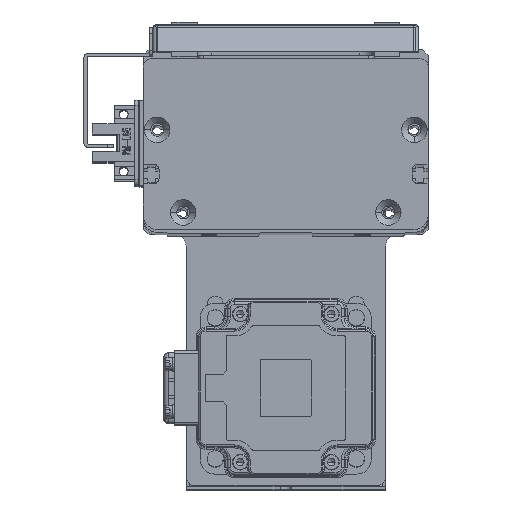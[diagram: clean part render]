
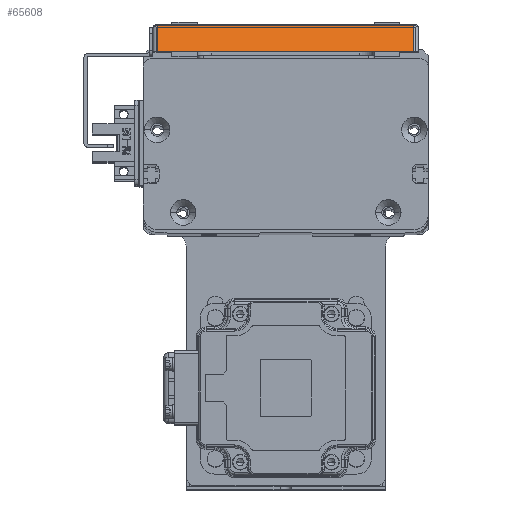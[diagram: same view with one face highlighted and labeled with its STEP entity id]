
A CAD part, top view. The second image highlights one B-rep face of the part: STEP entity #65608.
In plain terms, the highlighted planar face has unit normal (0, 0.707, 0.707) as drawn and (-0.707, 0, -0.707) by its records, which use the part's own axes.
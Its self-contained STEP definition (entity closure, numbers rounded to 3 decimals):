
#5240 = ORIENTED_EDGE ( 'NONE', *, *, #55066, .T. ) ;
#5382 = LINE ( 'NONE', #55321, #48227 ) ;
#7487 = ORIENTED_EDGE ( 'NONE', *, *, #48388, .T. ) ;
#8179 = LINE ( 'NONE', #66872, #59366 ) ;
#8588 = PLANE ( 'NONE',  #68480 ) ;
#12643 = CARTESIAN_POINT ( 'NONE',  ( -68., 91.7, 5.6 ) ) ;
#16825 = LINE ( 'NONE', #12643, #58664 ) ;
#17959 = EDGE_LOOP ( 'NONE', ( #19389, #5240, #55333, #7487 ) ) ;
#19389 = ORIENTED_EDGE ( 'NONE', *, *, #57679, .T. ) ;
#22285 = LINE ( 'NONE', #67739, #41555 ) ;
#22583 = FACE_OUTER_BOUND ( 'NONE', #17959, .T. ) ;
#23813 = DIRECTION ( 'NONE',  ( 0., 1., 0. ) ) ;
#24546 = CARTESIAN_POINT ( 'NONE',  ( -57.298, 1.7, -5.102 ) ) ;
#28849 = DIRECTION ( 'NONE',  ( 0., -1., 0. ) ) ;
#29719 = DIRECTION ( 'NONE',  ( -0.707, 0., 0.707 ) ) ;
#29825 = CARTESIAN_POINT ( 'NONE',  ( -57.298, 91.7, -5.102 ) ) ;
#32136 = DIRECTION ( 'NONE',  ( -0.707, 0., 0.707 ) ) ;
#33083 = CARTESIAN_POINT ( 'NONE',  ( -66.5, 1.7, 4.1 ) ) ;
#35698 = VERTEX_POINT ( 'NONE', #57978 ) ;
#36407 = VERTEX_POINT ( 'NONE', #33083 ) ;
#41555 = VECTOR ( 'NONE', #32136, 1000. ) ;
#45908 = DIRECTION ( 'NONE',  ( -0.707, 0., -0.707 ) ) ;
#48227 = VECTOR ( 'NONE', #28849, 1000. ) ;
#48388 = EDGE_CURVE ( 'NONE', #59150, #65624, #5382, .T. ) ;
#55066 = EDGE_CURVE ( 'NONE', #36407, #35698, #8179, .T. ) ;
#55321 = CARTESIAN_POINT ( 'NONE',  ( -57.298, 93.4, -5.102 ) ) ;
#55333 = ORIENTED_EDGE ( 'NONE', *, *, #65433, .T. ) ;
#57679 = EDGE_CURVE ( 'NONE', #65624, #36407, #22285, .T. ) ;
#57978 = CARTESIAN_POINT ( 'NONE',  ( -66.5, 91.7, 4.1 ) ) ;
#58664 = VECTOR ( 'NONE', #60178, 1000. ) ;
#59150 = VERTEX_POINT ( 'NONE', #29825 ) ;
#59366 = VECTOR ( 'NONE', #23813, 1000. ) ;
#60178 = DIRECTION ( 'NONE',  ( 0.707, 0., -0.707 ) ) ;
#61812 = CARTESIAN_POINT ( 'NONE',  ( -68., 93.4, 5.6 ) ) ;
#65433 = EDGE_CURVE ( 'NONE', #35698, #59150, #16825, .T. ) ;
#65608 = ADVANCED_FACE ( 'NONE', ( #22583 ), #8588, .T. ) ;
#65624 = VERTEX_POINT ( 'NONE', #24546 ) ;
#66872 = CARTESIAN_POINT ( 'NONE',  ( -66.5, 93.4, 4.1 ) ) ;
#67739 = CARTESIAN_POINT ( 'NONE',  ( -68., 1.7, 5.6 ) ) ;
#68480 = AXIS2_PLACEMENT_3D ( 'NONE', #61812, #45908, #29719 ) ;
